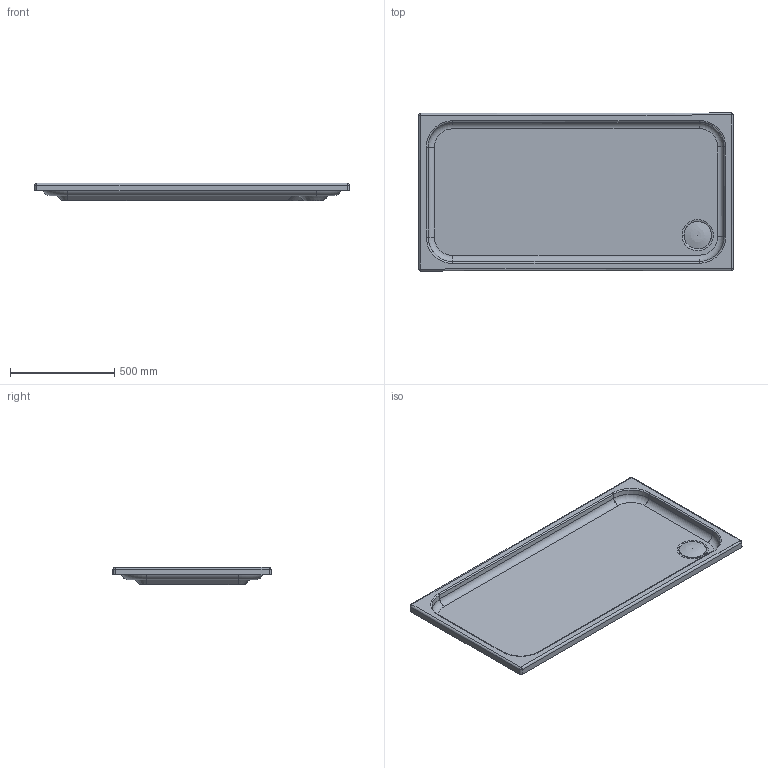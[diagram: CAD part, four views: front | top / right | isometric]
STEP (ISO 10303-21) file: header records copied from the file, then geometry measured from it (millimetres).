
FILE_DESCRIPTION((''),'2;1');
FILE_NAME('C:\Users\Administrator\Desktop\Änderungen News 2012\D-CODE neue DU\3d\stp\720099.stp','2012-03-03T11:11:17',('Administrator'),(''),'Autodesk Inventor 2011','Autodesk Inventor 2011','');
FILE_SCHEMA(('CONFIG_CONTROL_DESIGN'));
Length unit declared in the file: millimetre
Products named in the file (3): 720099; Stopfen_Duschwanne
Assembly tree (2 placements, depth 2):
  720099
    720099
    Stopfen_Duschwanne
Bounding box: 1505.82 x 756.65 x 85.17 mm (x, y, z)
Volume: 23338116.4 mm3; surface area: 2914407.1 mm2
Topology: 2 solids, 2 shells, 126 faces, 300 edges, 175 vertices
Faces by surface type: cylinder 42, plane 39, torus 22, cone 14, sphere 8, bspline 1
Full cylindrical faces by diameter (mm): 90 x1, 129.75 x1
Entity records: 3759 total; most frequent: CARTESIAN_POINT 749, DIRECTION 668, ORIENTED_EDGE 566, EDGE_CURVE 283, AXIS2_PLACEMENT_3D 263, VERTEX_POINT 173, VECTOR 142, LINE 142
